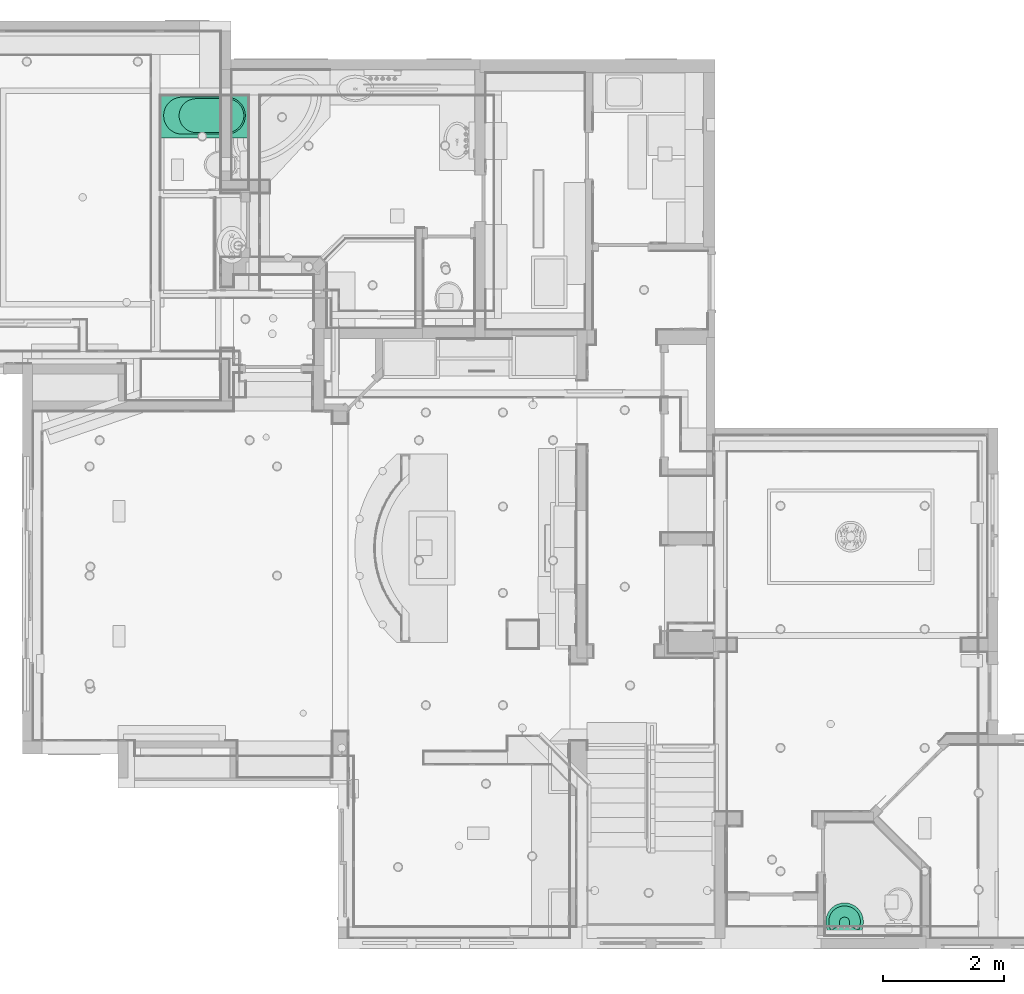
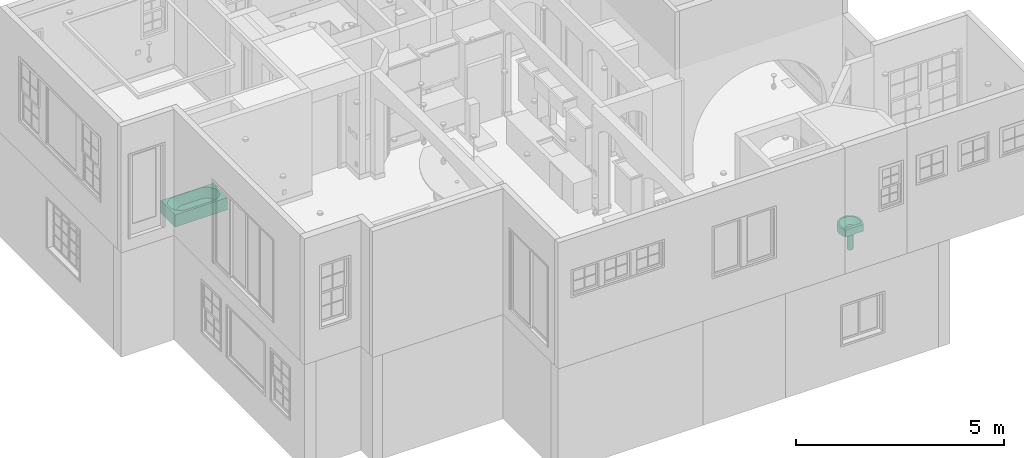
# One storey, part 50 of 81: 2 flow terminals.
"""IFC2X3 building model written with IfcOpenShell, lengths in feet."""

from ifc_helpers import new_model, entity, si_unit, converted_unit, derived_unit, direction, frame, origin, place, context, subcontext, project, spatial, faceted_brep, source, transform, mapped, material, type_object, type_shapes, element, save


model = new_model("IFC2X3")

# Units and contexts
model_context = context("Model", 3, precision=0.0001, world=origin(), true_north=direction((6.12303176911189e-17, 1.0)))
body_context = subcontext(model_context, "Body", "Model", "MODEL_VIEW")
ifc_project = project(units=[converted_unit("LENGTHUNIT", "FOOT", entity("IfcRatioMeasure", 0.3048), si_unit("LENGTHUNIT", "METRE"), dimensions=[1, 0, 0, 0, 0, 0, 0]), converted_unit("AREAUNIT", "SQUARE FOOT", entity("IfcRatioMeasure", 0.09290304), si_unit("AREAUNIT", "SQUARE_METRE"), dimensions=[2, 0, 0, 0, 0, 0, 0]), converted_unit("VOLUMEUNIT", "CUBIC FOOT", entity("IfcRatioMeasure", 0.028316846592), si_unit("VOLUMEUNIT", "CUBIC_METRE"), dimensions=[3, 0, 0, 0, 0, 0, 0]), converted_unit("PLANEANGLEUNIT", "DEGREE", entity("IfcRatioMeasure", 0.0174532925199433), si_unit("PLANEANGLEUNIT", "RADIAN"), dimensions=[0, 0, 0, 0, 0, 0, 0]), si_unit("MASSUNIT", "GRAM", prefix="KILO"), derived_unit("MASSDENSITYUNIT", [(si_unit("MASSUNIT", "GRAM", prefix="KILO"), 1), (si_unit("LENGTHUNIT", "METRE"), -3)]), derived_unit("MOMENTOFINERTIAUNIT", [(si_unit("LENGTHUNIT", "METRE"), 4)]), si_unit("TIMEUNIT", "SECOND"), si_unit("FREQUENCYUNIT", "HERTZ"), si_unit("THERMODYNAMICTEMPERATUREUNIT", "DEGREE_CELSIUS"), derived_unit("THERMALTRANSMITTANCEUNIT", [(si_unit("MASSUNIT", "GRAM", prefix="KILO"), 1), (si_unit("THERMODYNAMICTEMPERATUREUNIT", "KELVIN"), -1), (si_unit("TIMEUNIT", "SECOND"), -3)]), derived_unit("VOLUMETRICFLOWRATEUNIT", [(si_unit("LENGTHUNIT", "METRE"), 3), (si_unit("TIMEUNIT", "SECOND"), -1)]), si_unit("ELECTRICCURRENTUNIT", "AMPERE"), si_unit("ELECTRICVOLTAGEUNIT", "VOLT"), si_unit("POWERUNIT", "WATT"), si_unit("FORCEUNIT", "NEWTON"), si_unit("ILLUMINANCEUNIT", "LUX"), si_unit("LUMINOUSFLUXUNIT", "LUMEN"), si_unit("LUMINOUSINTENSITYUNIT", "CANDELA"), derived_unit("USERDEFINED", [(si_unit("MASSUNIT", "GRAM", prefix="KILO"), -1), (si_unit("LENGTHUNIT", "METRE"), -2), (si_unit("TIMEUNIT", "SECOND"), 3), (si_unit("LUMINOUSFLUXUNIT", "LUMEN"), 1)]), derived_unit("LINEARVELOCITYUNIT", [(si_unit("LENGTHUNIT", "METRE"), 1), (si_unit("TIMEUNIT", "SECOND"), -1)]), si_unit("PRESSUREUNIT", "PASCAL"), derived_unit("USERDEFINED", [(si_unit("LENGTHUNIT", "METRE"), -2), (si_unit("MASSUNIT", "GRAM", prefix="KILO"), 1), (si_unit("TIMEUNIT", "SECOND"), -2)]), derived_unit("LINEARFORCEUNIT", [(si_unit("MASSUNIT", "GRAM", prefix="KILO"), 1), (si_unit("LENGTHUNIT", "METRE"), 1), (si_unit("TIMEUNIT", "SECOND"), -2), (si_unit("LENGTHUNIT", "METRE"), -1)]), derived_unit("PLANARFORCEUNIT", [(si_unit("MASSUNIT", "GRAM", prefix="KILO"), 1), (si_unit("LENGTHUNIT", "METRE"), 1), (si_unit("TIMEUNIT", "SECOND"), -2), (si_unit("LENGTHUNIT", "METRE"), -2)])], contexts=[model_context])

# Site, building, storey
site_placement = place(None, origin())
site = spatial("IfcSite", under=ifc_project, at=site_placement, Name="Default", CompositionType="ELEMENT")
building_placement = place(site_placement, origin())
building = spatial("IfcBuilding", under=site, at=building_placement, CompositionType="ELEMENT")
storey_placement = place(building_placement, origin())
storey = spatial("IfcBuildingStorey", under=building, at=storey_placement, Name="First floor", CompositionType="ELEMENT", Elevation=0.0)

# Flow terminals
ifc_material = material(Name="Default New Material")
distribution_element_type_1 = type_object("IfcDistributionElementType", Name="Plumbing Fixtures 5:Plumbing Fixtures 5", material=ifc_material)
shared_shape_1 = source(origin(), body_context, "Body", "Brep", [
    faceted_brep([(0.817411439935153, 0.840471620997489, 0.0), (0.857141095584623, 0.892248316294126, 0.0), (0.908917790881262, 0.931977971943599, 0.0), (0.96921302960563, 0.956953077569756, 0.0), (1.03391779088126, 0.965471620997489, 0.0), (1.09862255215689, 0.956953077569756, 0.0), (1.15891779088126, 0.931977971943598, 0.0), (1.2106944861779, 0.892248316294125, 0.0), (1.25042414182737, 0.840471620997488, 0.0), (1.27539924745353, 0.780176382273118, 0.0), (1.28391779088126, 0.715471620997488, 0.0), (1.27539924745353, 0.650766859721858, 0.0), (1.25042414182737, 0.590471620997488, 0.0), (1.2106944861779, 0.538694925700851, 0.0), (1.15891779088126, 0.498965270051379, 0.0), (1.09862255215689, 0.473990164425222, 0.0), (1.03391779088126, 0.465471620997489, 0.0), (0.96921302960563, 0.473990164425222, 0.0), (0.908917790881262, 0.49896527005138, 0.0), (0.857141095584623, 0.538694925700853, 0.0), (0.817411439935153, 0.590471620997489, 0.0), (0.792436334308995, 0.650766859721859, 0.0), (0.783917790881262, 0.715471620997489, 0.0), (0.792436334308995, 0.78017638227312, 0.0), (1.27539924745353, 0.780176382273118, 1.83333333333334), (1.25042414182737, 0.840471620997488, 1.83333333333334), (1.2106944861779, 0.892248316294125, 1.83333333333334), (1.15891779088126, 0.931977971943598, 1.83333333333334), (1.09862255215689, 0.956953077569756, 1.83333333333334), (1.03391779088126, 0.965471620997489, 1.83333333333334), (0.96921302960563, 0.956953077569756, 1.83333333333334), (0.908917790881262, 0.931977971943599, 1.83333333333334), (0.857141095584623, 0.892248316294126, 1.83333333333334), (0.817411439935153, 0.840471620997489, 1.83333333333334), (0.792436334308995, 0.78017638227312, 1.83333333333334), (0.783917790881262, 0.715471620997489, 1.83333333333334), (0.792436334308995, 0.650766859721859, 1.83333333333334), (0.817411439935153, 0.590471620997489, 1.83333333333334), (0.857141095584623, 0.538694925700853, 1.83333333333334), (0.908917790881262, 0.49896527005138, 1.83333333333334), (0.96921302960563, 0.473990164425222, 1.83333333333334), (1.03391779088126, 0.465471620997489, 1.83333333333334), (1.09862255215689, 0.473990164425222, 1.83333333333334), (1.15891779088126, 0.498965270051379, 1.83333333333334), (1.2106944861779, 0.538694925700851, 1.83333333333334), (1.25042414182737, 0.590471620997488, 1.83333333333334), (1.27539924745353, 0.650766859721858, 1.83333333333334), (1.28391779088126, 0.715471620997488, 1.83333333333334)], [[[0, 1, 2, 3, 4, 5, 6, 7, 8, 9, 10, 11, 12, 13, 14, 15, 16, 17, 18, 19, 20, 21, 22, 23]], [[24, 25, 26, 27, 28, 29, 30, 31, 32, 33, 34, 35, 36, 37, 38, 39, 40, 41, 42, 43, 44, 45, 46, 47]], [[17, 40, 39, 18]], [[38, 19, 18, 39]], [[20, 37, 36, 21]], [[38, 37, 20, 19]], [[21, 36, 35, 22]], [[40, 17, 16, 41]], [[23, 34, 33, 0]], [[32, 1, 0, 33]], [[2, 31, 30, 3]], [[32, 31, 2, 1]], [[3, 30, 29, 4]], [[34, 23, 22, 35]], [[5, 28, 27, 6]], [[26, 7, 6, 27]], [[8, 25, 24, 9]], [[26, 25, 8, 7]], [[9, 24, 47, 10]], [[28, 5, 4, 29]], [[11, 46, 45, 12]], [[44, 13, 12, 45]], [[14, 43, 42, 15]], [[44, 43, 14, 13]], [[15, 42, 41, 16]], [[46, 11, 10, 47]]]),
    faceted_brep([(1.81258860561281, 0.363873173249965, 2.47083333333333), (1.92377104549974, 0.181084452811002, 2.47083333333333), (1.9867959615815, 0.366749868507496, 2.47083333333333), (1.77999821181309, 0.270240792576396, 2.47083333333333), (1.83812519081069, 0.459666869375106, 2.47083333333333), (1.8370511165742, 0.005233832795, 2.47083333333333), (0.263106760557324, 0.270240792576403, 2.47083333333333), (0.206053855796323, 0.00523383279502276, 2.47083333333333), (0.119333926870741, 0.181084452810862, 2.47083333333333), (0.230513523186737, 0.363882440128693, 2.47083333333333), (0.0563090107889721, 0.366749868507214, 2.47083333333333), (0.204976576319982, 0.459680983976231, 2.47083333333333), (0.0180574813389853, 0.559053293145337, 2.47083333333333), (0.186635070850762, 0.557109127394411, 2.47083333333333), (0.175589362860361, 0.65563091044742, 2.47083333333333), (0.00523383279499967, 0.754704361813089, 2.47083333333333), (0.171900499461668, 0.75470436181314, 2.47083333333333), (0.177140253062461, 0.848007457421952, 2.47083333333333), (0.0274500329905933, 0.950727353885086, 2.47083333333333), (0.192793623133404, 0.940137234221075, 2.47083333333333), (0.218663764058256, 1.02993512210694, 2.47083333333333), (0.0871136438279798, 1.13876678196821, 2.47083333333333), (0.254425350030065, 1.11627187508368, 2.47083333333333), (0.181977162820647, 1.31173928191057, 2.47083333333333), (0.299628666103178, 1.1980617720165, 2.47083333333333), (0.353705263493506, 1.27427627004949, 2.47083333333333), (0.308467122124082, 1.46312905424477, 2.47083333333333), (0.415975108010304, 1.34395693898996, 2.47083333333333), (0.485655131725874, 1.40622751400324, 2.47083333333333), (0.461818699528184, 1.58723331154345, 2.47083333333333), (0.5618690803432, 1.46030491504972, 2.47083333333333), (0.643658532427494, 1.50550909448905, 2.47083333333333), (0.636255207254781, 1.67937709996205, 2.47083333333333), (0.729994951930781, 1.54127158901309, 2.47083333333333), (0.819792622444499, 1.5671426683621, 2.47083333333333), (0.825205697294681, 1.73608940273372, 2.47083333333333), (0.911922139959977, 1.58279697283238, 2.47083333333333), (1.02155248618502, 1.75523389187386, 2.47083333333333), (1.00523383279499, 1.58803769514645, 2.47083333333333), (1.03787113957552, 1.58803769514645, 2.47083333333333), (1.13118283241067, 1.58279697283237, 2.47083333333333), (1.21789927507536, 1.73608940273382, 2.47083333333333), (1.22331234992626, 1.56714266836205, 2.47083333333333), (1.40684976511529, 1.67937709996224, 2.47083333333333), (1.31311002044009, 1.54127158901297, 2.47083333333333), (1.39944643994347, 1.50550909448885, 2.47083333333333), (1.58128627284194, 1.58723331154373, 2.47083333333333), (1.48123589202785, 1.46030491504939, 2.47083333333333), (1.55744984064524, 1.40622751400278, 2.47083333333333), (1.7346378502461, 1.46312905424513, 2.47083333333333), (1.62712986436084, 1.34395693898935, 2.47083333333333), (1.68939970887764, 1.27427627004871, 2.47083333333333), (1.86112780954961, 1.311739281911, 2.47083333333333), (1.74347630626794, 1.19806177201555, 2.47083333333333), (1.788679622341, 1.11627187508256, 2.47083333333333), (1.95599132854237, 1.13876678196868, 2.47083333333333), (1.82444120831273, 1.02993512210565, 2.47083333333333), (2.01565493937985, 0.95072735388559, 2.47083333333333), (1.85031134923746, 0.940137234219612, 2.47083333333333), (1.86596471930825, 0.848007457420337, 2.47083333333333), (2.03787113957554, 0.754704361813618, 2.47083333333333), (1.87120447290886, 0.754704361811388, 2.47083333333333), (1.86751488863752, 0.655621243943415, 2.47083333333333), (2.0250474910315, 0.559053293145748, 2.47083333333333), (1.85646775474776, 0.557094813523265, 2.47083333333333), (1.40684976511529, 1.67937709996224, 1.80416666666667), (1.58128627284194, 1.58723331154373, 1.80416666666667), (1.7346378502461, 1.46312905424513, 1.80416666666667), (1.86112780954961, 1.311739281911, 1.80416666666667), (1.95599132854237, 1.13876678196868, 1.80416666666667), (2.01565493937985, 0.95072735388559, 1.80416666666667), (2.03787113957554, 0.754704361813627, 1.80416666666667), (2.0250474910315, 0.559053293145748, 1.80416666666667), (1.9867959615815, 0.366749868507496, 1.80416666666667), (1.92377104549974, 0.181084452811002, 1.80416666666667), (1.8370511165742, 0.00523383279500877, 1.80416666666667), (0.206053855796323, 0.00523383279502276, 1.80416666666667), (0.119333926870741, 0.181084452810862, 1.80416666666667), (0.0563090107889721, 0.366749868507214, 1.80416666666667), (0.0180574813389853, 0.559053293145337, 1.80416666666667), (0.00523383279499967, 0.754704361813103, 1.80416666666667), (0.0274500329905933, 0.950727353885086, 1.80416666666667), (0.0871136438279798, 1.13876678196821, 1.80416666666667), (0.181977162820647, 1.31173928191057, 1.80416666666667), (0.308467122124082, 1.46312905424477, 1.80416666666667), (0.461818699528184, 1.58723331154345, 1.80416666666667), (0.636255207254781, 1.67937709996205, 1.80416666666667), (0.825205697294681, 1.73608940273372, 1.80416666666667), (1.02155248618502, 1.75523389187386, 1.80416666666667), (1.21789927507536, 1.73608940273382, 1.80416666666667), (0.74544254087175, 0.7338390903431, 2.1375), (0.74544254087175, 0.624953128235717, 2.1375), (0.74544254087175, 0.516067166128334, 2.1375), (1.28710920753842, 0.516067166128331, 2.1375), (1.28710920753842, 0.624953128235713, 2.1375), (1.28710920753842, 0.733839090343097, 2.1375), (1.27759414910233, 0.781674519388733, 2.1375), (1.26807909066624, 0.82950994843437, 2.1375), (1.24098249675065, 0.870062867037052, 2.1375), (1.21388590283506, 0.910615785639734, 2.1375), (1.17333298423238, 0.937712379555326, 2.1375), (1.13278006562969, 0.964808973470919, 2.1375), (1.0897513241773, 0.97336792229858, 2.1375), (1.03710920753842, 0.983839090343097, 2.1375), (0.99544254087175, 0.983839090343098, 2.1375), (0.947607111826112, 0.974324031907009, 2.1375), (0.899771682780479, 0.96480897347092, 2.1375), (0.859218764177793, 0.937712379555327, 2.1375), (0.818665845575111, 0.910615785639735, 2.1375), (0.791569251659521, 0.870062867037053, 2.1375), (0.764472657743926, 0.829509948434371, 2.1375), (0.755962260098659, 0.786725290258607, 2.1375), (1.53047352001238, 0.504721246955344, 2.28796478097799), (1.54703154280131, 0.640403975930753, 2.2879705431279), (1.57915684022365, 0.744271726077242, 2.30416666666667), (1.53355370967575, 0.393153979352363, 2.30416666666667), (1.54579339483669, 0.743079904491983, 2.28512671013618), (0.504274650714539, 0.393153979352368, 2.30416666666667), (0.490293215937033, 0.640413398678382, 2.28796478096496), (0.506831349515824, 0.504726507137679, 2.28797054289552), (0.492913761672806, 0.7430260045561, 2.28426563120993), (0.458671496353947, 0.74427172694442, 2.30416668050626), (0.999753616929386, 1.24986589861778, 2.28426565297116), (0.852365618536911, 1.25716218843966, 2.2998064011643), (0.596447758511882, 1.10520670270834, 2.30416601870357), (0.532806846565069, 1.0023214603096, 2.29980733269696), (0.481441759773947, 0.893693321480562, 2.30319783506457), (0.74188109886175, 1.21140255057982, 2.29980926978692), (1.0374466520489, 1.25142660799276, 2.28512668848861), (1.18690575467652, 1.2628274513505, 2.3030544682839), (1.39843091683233, 1.1481601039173, 2.30416731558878), (1.55064835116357, 0.891839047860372, 2.29980831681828), (1.2958093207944, 1.21140254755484, 2.29980927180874), (1.50488350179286, 1.00232144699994, 2.29980733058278)], [[[0, 1, 2]], [[3, 1, 0]], [[2, 4, 0]], [[5, 1, 3]], [[5, 3, 6]], [[6, 7, 5]], [[8, 7, 6]], [[8, 6, 9]], [[8, 9, 10]], [[10, 9, 11]], [[12, 10, 11]], [[13, 12, 11]], [[12, 13, 14]], [[14, 15, 12]], [[15, 14, 16]], [[17, 15, 16]], [[15, 17, 18]], [[17, 19, 18]], [[19, 20, 18]], [[18, 20, 21]], [[20, 22, 21]], [[22, 23, 21]], [[22, 24, 23]], [[23, 24, 25]], [[25, 26, 23]], [[25, 27, 26]], [[27, 28, 26]], [[26, 28, 29]], [[28, 30, 29]], [[31, 29, 30]], [[32, 29, 31]], [[31, 33, 32]], [[32, 33, 34]], [[32, 34, 35]], [[36, 35, 34]], [[37, 35, 36]], [[36, 38, 37]], [[38, 39, 37]], [[40, 37, 39]], [[37, 40, 41]], [[40, 42, 41]], [[42, 43, 41]], [[44, 43, 42]], [[44, 45, 43]], [[46, 43, 45]], [[45, 47, 46]], [[46, 47, 48]], [[48, 49, 46]], [[50, 49, 48]], [[50, 51, 49]], [[51, 52, 49]], [[53, 52, 51]], [[54, 52, 53]], [[54, 55, 52]], [[55, 54, 56]], [[56, 57, 55]], [[58, 57, 56]], [[58, 59, 57]], [[59, 60, 57]], [[60, 59, 61]], [[62, 60, 61]], [[60, 62, 63]], [[64, 63, 62]], [[64, 4, 63]], [[2, 63, 4]], [[65, 66, 67, 68, 69, 70, 71, 72, 73, 74, 75, 76, 77, 78, 79, 80, 81, 82, 83, 84, 85, 86, 87, 88, 89]], [[80, 79, 12, 15]], [[12, 79, 78, 10]], [[77, 76, 7, 8]], [[77, 8, 10, 78]], [[5, 7, 76, 75]], [[75, 74, 1, 5]], [[1, 74, 73, 2]], [[72, 71, 60, 63]], [[72, 63, 2, 73]], [[90, 91, 92, 93, 94, 95, 96, 97, 98, 99, 100, 101, 102, 103, 104, 105, 106, 107, 108, 109, 110, 111]], [[112, 4, 113]], [[113, 95, 94]], [[4, 64, 113]], [[114, 113, 62]], [[4, 112, 0]], [[112, 93, 115]], [[112, 115, 0]], [[113, 114, 116, 95]], [[112, 113, 94]], [[62, 113, 64]], [[112, 94, 93]], [[62, 61, 114]], [[3, 0, 115]], [[6, 3, 115, 93, 92, 117]], [[118, 13, 119]], [[119, 92, 91]], [[13, 11, 119]], [[117, 119, 9]], [[13, 118, 14]], [[118, 90, 120, 121]], [[118, 121, 14]], [[117, 92, 119]], [[118, 119, 91]], [[9, 119, 11]], [[118, 91, 90]], [[9, 6, 117]], [[16, 14, 121]], [[111, 120, 90]], [[122, 36, 123]], [[124, 125, 109]], [[122, 38, 36]], [[107, 124, 108]], [[25, 24, 124]], [[126, 111, 110]], [[27, 124, 28]], [[19, 17, 126]], [[19, 126, 20]], [[126, 17, 120]], [[124, 27, 25]], [[126, 125, 22]], [[17, 16, 121, 120]], [[126, 120, 111]], [[127, 124, 107]], [[24, 22, 125]], [[123, 106, 105]], [[127, 123, 33]], [[122, 105, 104]], [[20, 126, 22]], [[125, 124, 24]], [[34, 123, 36]], [[125, 126, 110]], [[33, 123, 34]], [[31, 30, 127]], [[30, 28, 127]], [[125, 110, 109]], [[123, 105, 122]], [[127, 107, 106]], [[28, 124, 127]], [[33, 31, 127]], [[108, 124, 109]], [[127, 106, 123]], [[103, 128, 39, 38, 122, 104]], [[129, 128, 102]], [[102, 128, 103]], [[130, 48, 47]], [[116, 59, 131]], [[59, 116, 114, 61]], [[45, 129, 132]], [[98, 130, 99]], [[130, 50, 48]], [[42, 40, 129]], [[42, 129, 44]], [[129, 40, 128]], [[100, 130, 132]], [[133, 130, 98]], [[128, 40, 39]], [[47, 132, 130]], [[133, 97, 131]], [[47, 45, 132]], [[131, 97, 96]], [[131, 56, 54]], [[116, 96, 95]], [[44, 129, 45]], [[100, 99, 130]], [[58, 131, 59]], [[132, 129, 101]], [[56, 131, 58]], [[54, 53, 133]], [[129, 102, 101]], [[132, 101, 100]], [[131, 96, 116]], [[133, 98, 97]], [[133, 51, 130]], [[53, 51, 133]], [[50, 130, 51]], [[54, 133, 131]], [[70, 57, 60, 71]], [[57, 70, 69, 55]], [[69, 68, 52, 55]], [[66, 65, 43, 46]], [[49, 67, 66, 46]], [[41, 43, 65, 89]], [[68, 67, 49, 52]], [[37, 41, 89, 88]], [[29, 32, 86, 85]], [[32, 35, 87, 86]], [[26, 29, 85, 84]], [[82, 81, 18, 21]], [[21, 23, 83, 82]], [[23, 26, 84, 83]], [[15, 18, 81, 80]], [[88, 87, 35, 37]]]),
])
type_shapes(distribution_element_type_1, [shared_shape_1])
flow_terminal_1_placement = place(storey_placement, frame((26.3587241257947, 0.703099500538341, 10.6958333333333)))
element("IfcFlowTerminal", 1, at=flow_terminal_1_placement, inside=storey, type_object=distribution_element_type_1, material=ifc_material, Name="Plumbing Fixtures 5:Plumbing Fixtures 5", ObjectType="Plumbing Fixtures 5:Plumbing Fixtures 5", context=body_context, shape_type="MappedRepresentation", body=[
    mapped(shared_shape_1, transform((0.0, 0.0, 0.0), scale=1.0)),
])
distribution_element_type_2 = type_object("IfcDistributionElementType", Name="Plumbing Fixtures 8:Plumbing Fixtures 8", material=ifc_material)
shared_shape_2 = source(origin(), body_context, "Body", "Brep", [
    faceted_brep([(0.0, 0.0, 1.16666666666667), (0.268869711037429, 0.767923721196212, 1.16666666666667), (0.228920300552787, 0.861012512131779, 1.16666666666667), (0.318031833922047, 0.679354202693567, 1.16666666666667), (0.198593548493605, 0.957665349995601, 1.16666666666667), (0.178200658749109, 1.05689043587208, 1.16666666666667), (0.167950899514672, 1.15766957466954, 1.16666666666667), (0.0, 2.29166666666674, 1.16666666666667), (0.37590218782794, 0.596212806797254, 1.16666666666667), (0.441886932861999, 0.519352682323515, 1.16666666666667), (0.515308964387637, 0.449562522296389, 1.16666666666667), (0.59541486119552, 0.387558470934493, 1.16666666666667), (0.681382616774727, 0.333976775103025, 1.16666666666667), (0.772330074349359, 0.28936725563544, 1.16666666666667), (0.867323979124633, 0.254187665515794, 1.16666666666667), (0.965389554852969, 0.228798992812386, 1.16666666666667), (1.06552050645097, 0.213461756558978, 1.16666666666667), (1.16666666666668, 0.208333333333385, 1.16666666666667), (3.58333333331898, 0.208333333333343, 1.16666666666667), (4.74999999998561, 0.0, 1.16666666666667), (3.77842365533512, 0.227548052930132, 1.16666666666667), (3.96601676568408, 0.284453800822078, 1.16666666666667), (4.1389035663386, 0.376863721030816, 1.16666666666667), (4.29044011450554, 0.501226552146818, 1.16666666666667), (4.41480294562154, 0.652763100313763, 1.16666666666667), (4.50721286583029, 0.825649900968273, 1.16666666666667), (4.56411861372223, 1.01324301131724, 1.16666666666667), (4.58333333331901, 1.20833333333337, 1.16666666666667), (4.74999999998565, 2.29166666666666, 1.16666666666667), (3.583333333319, 2.20833333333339, 1.16666666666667), (3.77842365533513, 2.18911861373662, 1.16666666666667), (3.9660167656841, 2.13221286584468, 1.16666666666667), (4.56411861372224, 1.4034236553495, 1.16666666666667), (4.5072128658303, 1.59101676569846, 1.16666666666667), (4.41480294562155, 1.76390356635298, 1.16666666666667), (4.29044011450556, 1.91544011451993, 1.16666666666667), (4.13890356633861, 2.03980294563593, 1.16666666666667), (0.167949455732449, 1.25896862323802, 1.16666666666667), (0.17819634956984, 1.35974810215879, 1.16666666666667), (0.198586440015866, 1.45897386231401, 1.16666666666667), (0.228910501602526, 1.5556276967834, 1.16666666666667), (0.268857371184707, 1.64871778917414, 1.16666666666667), (0.318017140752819, 1.73728889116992, 1.16666666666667), (0.375885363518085, 1.82043212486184, 1.16666666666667), (0.441868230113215, 1.89729430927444, 1.16666666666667), (0.515288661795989, 1.9670867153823, 1.16666666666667), (0.595393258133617, 2.02909315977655, 1.16666666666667), (0.681360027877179, 2.08267735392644, 1.16666666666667), (0.772306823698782, 2.12728943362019, 1.16666666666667), (0.867300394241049, 2.16247160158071, 1.16666666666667), (0.965365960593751, 2.18786282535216, 1.16666666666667), (1.06549721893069, 2.2032025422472, 1.16666666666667), (1.1666666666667, 2.20833333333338, 1.16666666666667), (4.74999999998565, 2.29166666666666, 0.0), (4.74999999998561, 0.0, 0.0), (0.0, 0.0, 0.0), (0.0, 2.29166666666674, 0.0), (4.37718995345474, 0.750000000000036, 0.166666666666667), (4.4551351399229, 0.925067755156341, 0.166666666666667), (4.49497840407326, 1.11251557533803, 0.166666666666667), (4.49497840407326, 1.30415109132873, 0.166666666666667), (4.45513513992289, 1.49159891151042, 0.166666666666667), (4.37718995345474, 1.66666666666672, 0.166666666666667), (4.26454942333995, 1.82170305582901, 0.166666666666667), (4.12213648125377, 1.94993224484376, 0.166666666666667), (3.95617525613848, 2.04575000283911, 0.166666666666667), (3.77391904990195, 2.10496863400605, 0.166666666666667), (3.583333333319, 2.12500000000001, 0.166666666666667), (1.91666666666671, 2.12500000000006, 0.166666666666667), (1.72608095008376, 2.10496863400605, 0.166666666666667), (1.54382474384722, 2.04575000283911, 0.166666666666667), (1.37786351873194, 1.94993224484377, 0.166666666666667), (1.23545057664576, 1.82170305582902, 0.166666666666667), (1.12281004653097, 1.66666666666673, 0.166666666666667), (1.04486486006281, 1.49159891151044, 0.166666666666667), (1.00502159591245, 1.30415109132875, 0.166666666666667), (1.00502159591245, 1.11251557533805, 0.166666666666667), (1.04486486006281, 0.925067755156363, 0.166666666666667), (1.12281004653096, 0.750000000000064, 0.166666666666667), (1.23545057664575, 0.594963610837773, 0.166666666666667), (1.37786351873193, 0.466734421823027, 0.166666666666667), (1.54382474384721, 0.370916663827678, 0.166666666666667), (1.72608095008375, 0.311698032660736, 0.166666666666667), (1.91666666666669, 0.291666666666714, 0.166666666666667), (3.58333333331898, 0.2916666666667, 0.166666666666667), (3.77391904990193, 0.311698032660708, 0.166666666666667), (3.95617525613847, 0.370916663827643, 0.166666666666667), (4.12213648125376, 0.466734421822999, 0.166666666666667), (4.26454942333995, 0.594963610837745, 0.166666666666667), (1.45181949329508, 2.17664968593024, 0.786462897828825), (1.04308467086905, 0.395777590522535, 0.656187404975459), (0.890737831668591, 0.514424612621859, 0.655126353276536), (0.622371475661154, 1.40084065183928, 0.643310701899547), (0.697515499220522, 0.742930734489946, 0.67425458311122), (0.890707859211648, 1.90222513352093, 0.65514032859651), (0.62239233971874, 1.01579971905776, 0.643292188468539), (1.40671779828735, 0.267334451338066, 0.628298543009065), (1.21287644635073, 0.310050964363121, 0.661499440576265), (0.697505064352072, 1.67371242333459, 0.674251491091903), (0.626378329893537, 1.20831997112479, 0.615012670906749), (1.45181953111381, 0.240016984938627, 0.786462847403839), (1.11651566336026, 2.06902235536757, 0.670610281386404), (1.29981851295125, 2.13624454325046, 0.668790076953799)], [[[0, 1, 2]], [[1, 0, 3]], [[0, 2, 4]], [[4, 5, 0]], [[5, 6, 0]], [[0, 6, 7]], [[8, 3, 0]], [[8, 0, 9]], [[10, 9, 0]], [[11, 10, 0]], [[12, 11, 0]], [[13, 12, 0]], [[0, 14, 13]], [[15, 14, 0]], [[16, 15, 0]], [[16, 0, 17]], [[17, 0, 18]], [[19, 18, 0]], [[18, 19, 20]], [[19, 21, 20]], [[21, 19, 22]], [[22, 19, 23]], [[24, 23, 19]], [[24, 19, 25]], [[26, 25, 19]], [[19, 27, 26]], [[27, 19, 28]], [[29, 28, 7]], [[29, 30, 28]], [[31, 28, 30]], [[32, 27, 28]], [[33, 32, 28]], [[28, 34, 33]], [[34, 28, 35]], [[36, 35, 28]], [[36, 28, 31]], [[37, 7, 6]], [[37, 38, 7]], [[38, 39, 7]], [[40, 7, 39]], [[7, 40, 41]], [[7, 41, 42]], [[42, 43, 7]], [[43, 44, 7]], [[44, 45, 7]], [[45, 46, 7]], [[46, 47, 7]], [[47, 48, 7]], [[7, 48, 49]], [[49, 50, 7]], [[50, 51, 7]], [[51, 52, 7]], [[29, 7, 52]], [[53, 54, 55, 56]], [[19, 0, 55, 54]], [[28, 19, 54, 53]], [[7, 28, 53, 56]], [[0, 7, 56, 55]], [[57, 58, 59, 60, 61, 62, 63, 64, 65, 66, 67, 68, 69, 70, 71, 72, 73, 74, 75, 76, 77, 78, 79, 80, 81, 82, 83, 84, 85, 86, 87, 88]], [[29, 52, 89, 68, 67]], [[90, 91, 10]], [[39, 92, 40]], [[93, 2, 1]], [[9, 91, 8]], [[45, 94, 46]], [[94, 72, 71]], [[10, 11, 90]], [[95, 93, 77]], [[3, 8, 93]], [[96, 15, 16]], [[95, 4, 2]], [[95, 6, 5]], [[1, 3, 93]], [[96, 82, 97]], [[73, 98, 74]], [[93, 95, 2]], [[91, 93, 8]], [[37, 99, 92]], [[91, 90, 80]], [[95, 77, 76]], [[91, 80, 79]], [[96, 97, 14]], [[14, 15, 96]], [[13, 14, 97]], [[100, 83, 96]], [[92, 75, 74]], [[13, 97, 12]], [[16, 17, 100]], [[11, 12, 90]], [[81, 90, 97]], [[97, 82, 81]], [[79, 78, 93]], [[91, 9, 10]], [[79, 93, 91]], [[70, 101, 71]], [[49, 48, 101]], [[77, 93, 78]], [[43, 42, 98]], [[4, 95, 5]], [[69, 102, 70]], [[37, 6, 99]], [[50, 102, 51]], [[44, 43, 94]], [[45, 44, 94]], [[42, 41, 98]], [[94, 43, 98]], [[46, 101, 47]], [[50, 49, 102]], [[89, 51, 102]], [[48, 47, 101]], [[101, 102, 49]], [[94, 101, 46]], [[89, 69, 68]], [[92, 39, 38]], [[40, 98, 41]], [[38, 37, 92]], [[76, 75, 99]], [[89, 102, 69]], [[99, 95, 76]], [[92, 98, 40]], [[74, 98, 92]], [[94, 98, 72]], [[12, 97, 90]], [[80, 90, 81]], [[72, 98, 73]], [[71, 101, 94]], [[16, 100, 96]], [[101, 70, 102]], [[82, 96, 83]], [[95, 99, 6]], [[92, 99, 75]], [[89, 52, 51]], [[83, 100, 17, 18, 84]], [[84, 20, 85]], [[86, 85, 21]], [[22, 87, 86]], [[57, 88, 24]], [[25, 58, 57]], [[23, 88, 87]], [[26, 59, 58]], [[86, 21, 22]], [[85, 20, 21]], [[84, 18, 20]], [[57, 24, 25]], [[24, 88, 23]], [[87, 22, 23]], [[26, 58, 25]], [[26, 27, 59]], [[60, 32, 61]], [[62, 61, 33]], [[34, 63, 62]], [[31, 66, 65]], [[36, 65, 64]], [[30, 67, 66]], [[35, 64, 63]], [[62, 33, 34]], [[61, 32, 33]], [[60, 27, 32]], [[65, 36, 31]], [[66, 31, 30]], [[30, 29, 67]], [[34, 35, 63]], [[64, 35, 36]], [[59, 27, 60]]]),
])
type_shapes(distribution_element_type_2, [shared_shape_2])
flow_terminal_2_placement = place(storey_placement, frame((-9.58333333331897, 43.7916666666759, 0.0)))
element("IfcFlowTerminal", 2, at=flow_terminal_2_placement, inside=storey, type_object=distribution_element_type_2, material=ifc_material, Name="Plumbing Fixtures 8:Plumbing Fixtures 8", ObjectType="Plumbing Fixtures 8:Plumbing Fixtures 8", context=body_context, shape_type="MappedRepresentation", body=[
    mapped(shared_shape_2, transform((0.0, 0.0, 0.0), scale=1.0)),
])

save(model, "model.ifc")
